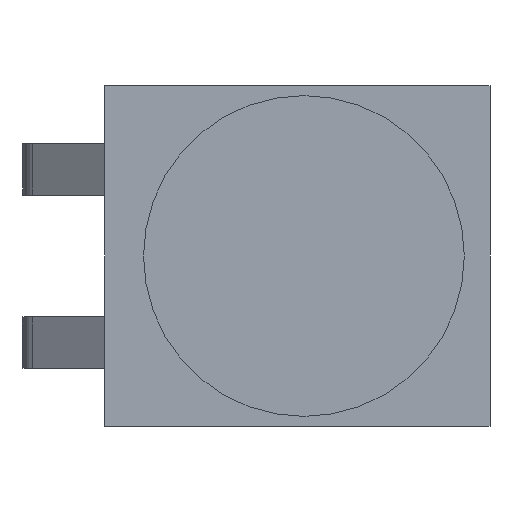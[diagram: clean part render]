
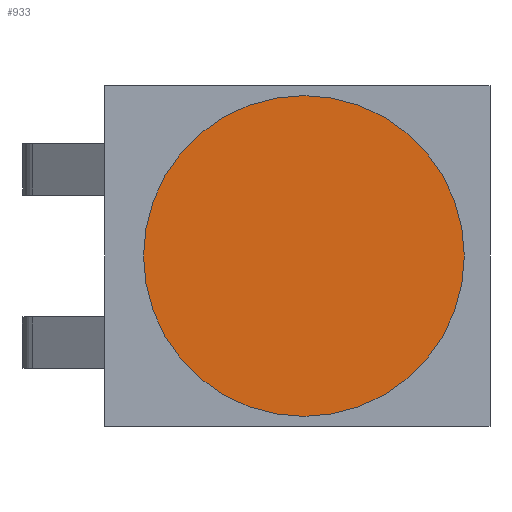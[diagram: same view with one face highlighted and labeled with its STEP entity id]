
A CAD part, left-side view. The second image highlights one B-rep face of the part: STEP entity #933.
In plain terms, the highlighted planar face has unit normal (-1, 0, 0).
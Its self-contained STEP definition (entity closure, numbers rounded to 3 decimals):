
#320=CARTESIAN_POINT('',(-8.25,-0.1,0.));
#321=DIRECTION('',(-1.,0.,0.));
#322=DIRECTION('',(0.,0.,1.));
#323=AXIS2_PLACEMENT_3D('',#320,#321,#322);
#325=CARTESIAN_POINT('',(-8.25,-0.1,0.));
#326=DIRECTION('',(-1.,0.,0.));
#327=DIRECTION('',(0.,0.,-1.));
#328=AXIS2_PLACEMENT_3D('',#325,#326,#327);
#366=CARTESIAN_POINT('',(-8.25,-0.1,2.5));
#367=CARTESIAN_POINT('',(-8.25,-0.1,-2.5));
#368=VERTEX_POINT('',#366);
#369=VERTEX_POINT('',#367);
#924=CARTESIAN_POINT('',(-8.25,0.,-2.65));
#925=DIRECTION('',(-1.,0.,0.));
#926=DIRECTION('',(0.,0.,1.));
#927=AXIS2_PLACEMENT_3D('',#924,#925,#926);
#928=PLANE('',#927);
#929=ORIENTED_EDGE('',*,*,#904,.F.);
#930=ORIENTED_EDGE('',*,*,#918,.F.);
#931=EDGE_LOOP('',(#929,#930));
#932=FACE_OUTER_BOUND('',#931,.F.);
#933=ADVANCED_FACE('',(#932),#928,.T.);
#324=CIRCLE('',#323,2.5);
#329=CIRCLE('',#328,2.5);
#904=EDGE_CURVE('',#368,#369,#324,.T.);
#918=EDGE_CURVE('',#369,#368,#329,.T.);
